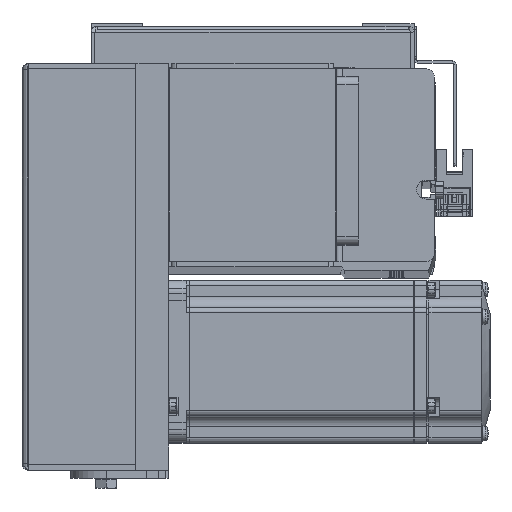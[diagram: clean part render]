
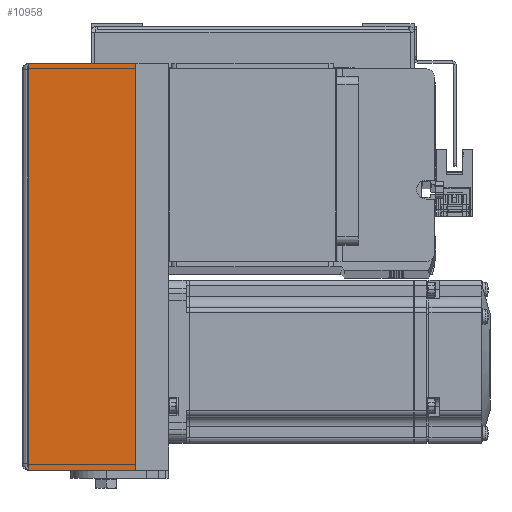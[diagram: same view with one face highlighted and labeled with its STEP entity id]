
A CAD part, top view. The second image highlights one B-rep face of the part: STEP entity #10958.
In plain terms, the highlighted planar face has unit normal (0, 0, 1) as drawn and (0, -1, 0) by its records, which use the part's own axes.
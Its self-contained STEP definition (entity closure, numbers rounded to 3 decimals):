
#418 = DIRECTION ( 'NONE',  ( 0., 0., -1. ) ) ;
#2219 = LINE ( 'NONE', #28649, #13454 ) ;
#4166 = EDGE_CURVE ( 'NONE', #38057, #4824, #27214, .T. ) ;
#4824 = VERTEX_POINT ( 'NONE', #26377 ) ;
#7576 = EDGE_CURVE ( 'NONE', #30071, #38057, #2219, .T. ) ;
#8362 = ORIENTED_EDGE ( 'NONE', *, *, #4166, .T. ) ;
#10958 = ADVANCED_FACE ( 'NONE', ( #18048 ), #15317, .F. ) ;
#13454 = VECTOR ( 'NONE', #14181, 1000. ) ;
#14181 = DIRECTION ( 'NONE',  ( 0., 0., -1. ) ) ;
#14868 = VECTOR ( 'NONE', #15125, 1000. ) ;
#14897 = VECTOR ( 'NONE', #14974, 1000. ) ;
#14974 = DIRECTION ( 'NONE',  ( 1., 0., 0. ) ) ;
#15125 = DIRECTION ( 'NONE',  ( 1., 0., 0. ) ) ;
#15317 = PLANE ( 'NONE',  #18014 ) ;
#15696 = CARTESIAN_POINT ( 'NONE',  ( 75., -36., 51.5 ) ) ;
#16189 = CARTESIAN_POINT ( 'NONE',  ( -75., -36., 51.5 ) ) ;
#17667 = DIRECTION ( 'NONE',  ( 0., 1., 0. ) ) ;
#18014 = AXIS2_PLACEMENT_3D ( 'NONE', #27220, #17667, #418 ) ;
#18048 = FACE_OUTER_BOUND ( 'NONE', #25258, .T. ) ;
#19543 = ORIENTED_EDGE ( 'NONE', *, *, #22156, .F. ) ;
#20450 = CARTESIAN_POINT ( 'NONE',  ( -75., -36., 12. ) ) ;
#21004 = CARTESIAN_POINT ( 'NONE',  ( 75., -36., 51.5 ) ) ;
#22129 = ORIENTED_EDGE ( 'NONE', *, *, #7576, .T. ) ;
#22156 = EDGE_CURVE ( 'NONE', #32287, #4824, #35843, .T. ) ;
#24500 = VECTOR ( 'NONE', #34529, 1000. ) ;
#25258 = EDGE_LOOP ( 'NONE', ( #32597, #22129, #8362, #19543 ) ) ;
#26377 = CARTESIAN_POINT ( 'NONE',  ( 75., -36., 12. ) ) ;
#26503 = LINE ( 'NONE', #21004, #14897 ) ;
#27214 = LINE ( 'NONE', #30746, #14868 ) ;
#27220 = CARTESIAN_POINT ( 'NONE',  ( 0., -36., 52. ) ) ;
#28649 = CARTESIAN_POINT ( 'NONE',  ( -75., -36., 51.5 ) ) ;
#30071 = VERTEX_POINT ( 'NONE', #16189 ) ;
#30746 = CARTESIAN_POINT ( 'NONE',  ( 0., -36., 12. ) ) ;
#32287 = VERTEX_POINT ( 'NONE', #15696 ) ;
#32597 = ORIENTED_EDGE ( 'NONE', *, *, #35266, .F. ) ;
#34529 = DIRECTION ( 'NONE',  ( 0., 0., -1. ) ) ;
#35266 = EDGE_CURVE ( 'NONE', #30071, #32287, #26503, .T. ) ;
#35843 = LINE ( 'NONE', #37485, #24500 ) ;
#37485 = CARTESIAN_POINT ( 'NONE',  ( 75., -36., 51.5 ) ) ;
#38057 = VERTEX_POINT ( 'NONE', #20450 ) ;
